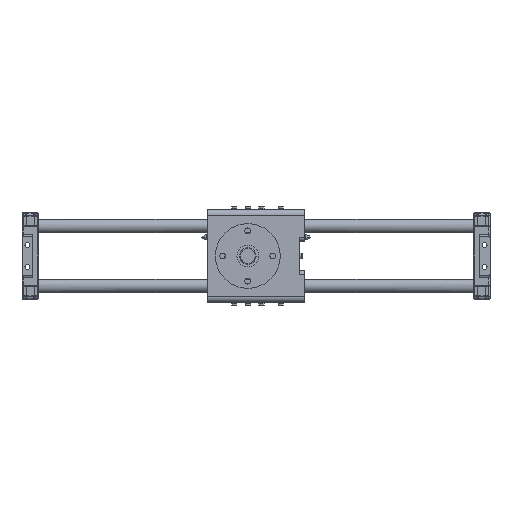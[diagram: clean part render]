
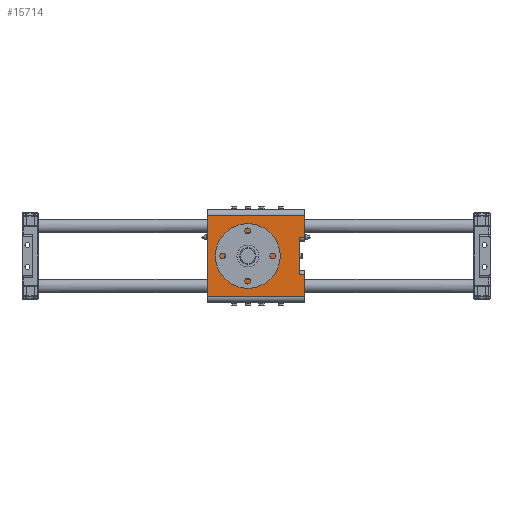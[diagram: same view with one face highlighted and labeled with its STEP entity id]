
A CAD part, front view. The second image highlights one B-rep face of the part: STEP entity #15714.
In plain terms, the highlighted planar face has unit normal (0, -1, 0).
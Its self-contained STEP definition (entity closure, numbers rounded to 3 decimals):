
#424=DIRECTION('',(-1.,0.,0.));
#425=VECTOR('',#424,180.);
#426=CARTESIAN_POINT('',(105.,688.,75.));
#427=LINE('',#426,#425);
#428=DIRECTION('',(0.,0.,-1.));
#429=VECTOR('',#428,40.5);
#430=CARTESIAN_POINT('',(105.,688.,75.));
#431=LINE('',#430,#429);
#432=DIRECTION('',(1.,0.,0.));
#433=VECTOR('',#432,10.);
#434=CARTESIAN_POINT('',(95.,688.,34.5));
#435=LINE('',#434,#433);
#436=DIRECTION('',(-1.,0.,0.));
#437=VECTOR('',#436,10.);
#438=CARTESIAN_POINT('',(105.,688.,-34.5));
#439=LINE('',#438,#437);
#440=DIRECTION('',(0.,0.,-1.));
#441=VECTOR('',#440,40.5);
#442=CARTESIAN_POINT('',(105.,688.,-34.5));
#443=LINE('',#442,#441);
#444=DIRECTION('',(1.,0.,0.));
#445=VECTOR('',#444,180.);
#446=CARTESIAN_POINT('',(-75.,688.,-75.));
#447=LINE('',#446,#445);
#448=DIRECTION('',(0.,0.,1.));
#449=VECTOR('',#448,150.);
#450=CARTESIAN_POINT('',(-75.,688.,-75.));
#451=LINE('',#450,#449);
#452=CARTESIAN_POINT('',(0.,688.,0.));
#453=DIRECTION('',(0.,-1.,0.));
#454=DIRECTION('',(0.707,0.,-0.707));
#455=AXIS2_PLACEMENT_3D('',#452,#453,#454);
#457=CARTESIAN_POINT('',(0.,688.,0.));
#458=DIRECTION('',(0.,-1.,0.));
#459=DIRECTION('',(-0.707,0.,0.707));
#460=AXIS2_PLACEMENT_3D('',#457,#458,#459);
#496=DIRECTION('',(0.,0.,1.));
#497=VECTOR('',#496,69.);
#498=CARTESIAN_POINT('',(95.,688.,-34.5));
#499=LINE('',#498,#497);
#13402=CARTESIAN_POINT('',(105.,688.,34.5));
#13404=VERTEX_POINT('',#13402);
#13408=CARTESIAN_POINT('',(95.,688.,34.5));
#13409=VERTEX_POINT('',#13408);
#13414=CARTESIAN_POINT('',(105.,688.,-34.5));
#13415=VERTEX_POINT('',#13414);
#13416=CARTESIAN_POINT('',(95.,688.,-34.5));
#13417=VERTEX_POINT('',#13416);
#13434=CARTESIAN_POINT('',(-75.,688.,75.));
#13436=VERTEX_POINT('',#13434);
#13440=CARTESIAN_POINT('',(105.,688.,75.));
#13441=VERTEX_POINT('',#13440);
#13442=CARTESIAN_POINT('',(105.,688.,-75.));
#13444=VERTEX_POINT('',#13442);
#13448=CARTESIAN_POINT('',(-75.,688.,-75.));
#13449=VERTEX_POINT('',#13448);
#13558=CARTESIAN_POINT('',(30.052,688.,-30.052));
#13559=CARTESIAN_POINT('',(-30.052,688.,30.052));
#13560=VERTEX_POINT('',#13558);
#13561=VERTEX_POINT('',#13559);
#15689=CARTESIAN_POINT('',(0.,688.,0.));
#15690=DIRECTION('',(0.,1.,0.));
#15691=DIRECTION('',(0.,0.,-1.));
#15692=AXIS2_PLACEMENT_3D('',#15689,#15690,#15691);
#15693=PLANE('',#15692);
#15695=ORIENTED_EDGE('',*,*,#15694,.F.);
#15696=ORIENTED_EDGE('',*,*,#15513,.T.);
#15698=ORIENTED_EDGE('',*,*,#15697,.F.);
#15700=ORIENTED_EDGE('',*,*,#15699,.F.);
#15702=ORIENTED_EDGE('',*,*,#15701,.F.);
#15703=ORIENTED_EDGE('',*,*,#15662,.T.);
#15704=ORIENTED_EDGE('',*,*,#15644,.F.);
#15705=ORIENTED_EDGE('',*,*,#15441,.T.);
#15706=EDGE_LOOP('',(#15695,#15696,#15698,#15700,#15702,#15703,#15704,#15705));
#15707=FACE_OUTER_BOUND('',#15706,.F.);
#15709=ORIENTED_EDGE('',*,*,#15708,.T.);
#15711=ORIENTED_EDGE('',*,*,#15710,.T.);
#15712=EDGE_LOOP('',(#15709,#15711));
#15713=FACE_BOUND('',#15712,.F.);
#456=CIRCLE('',#455,42.5);
#461=CIRCLE('',#460,42.5);
#15441=EDGE_CURVE('',#13449,#13436,#451,.T.);
#15513=EDGE_CURVE('',#13441,#13404,#431,.T.);
#15644=EDGE_CURVE('',#13449,#13444,#447,.T.);
#15662=EDGE_CURVE('',#13415,#13444,#443,.T.);
#15694=EDGE_CURVE('',#13441,#13436,#427,.T.);
#15697=EDGE_CURVE('',#13409,#13404,#435,.T.);
#15699=EDGE_CURVE('',#13417,#13409,#499,.T.);
#15701=EDGE_CURVE('',#13415,#13417,#439,.T.);
#15708=EDGE_CURVE('',#13560,#13561,#456,.T.);
#15710=EDGE_CURVE('',#13561,#13560,#461,.T.);
#15714=ADVANCED_FACE('',(#15707,#15713),#15693,.F.);
